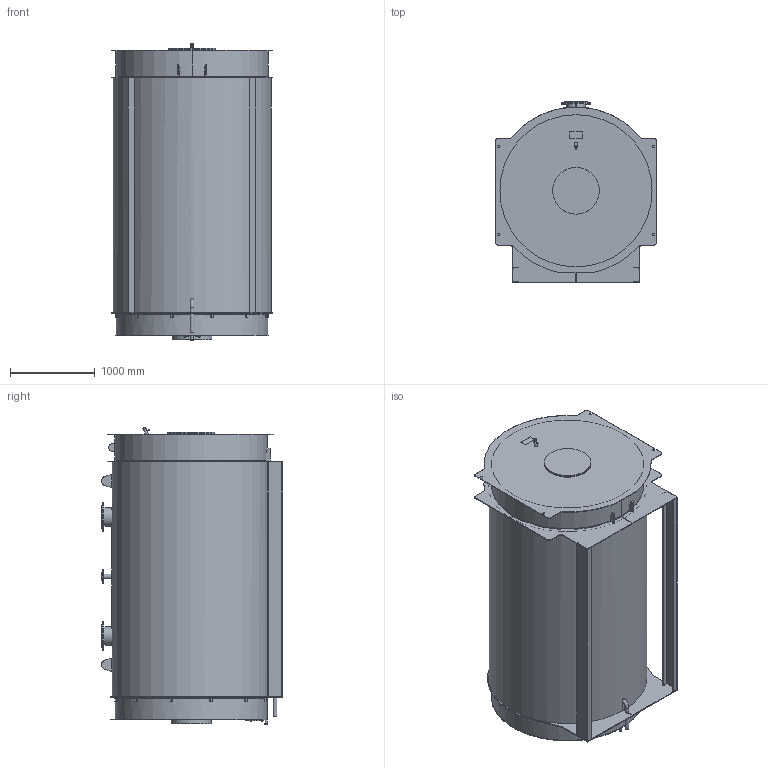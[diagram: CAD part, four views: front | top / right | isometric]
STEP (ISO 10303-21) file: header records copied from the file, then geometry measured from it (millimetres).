
FILE_DESCRIPTION(/* description */ (''),/* implementation_level */ '2;1');
FILE_NAME(/* name */ 'D:\Водогрейные 2х-ходовые котлы Гейзер\3D для проектировщиков\3D Гейзер 3000 кВт для проектировщика.stp',/* time_stamp */ '2024-08-15T00:23:25+07:00',/* author */ ('Александр'),/* organization */ (''),/* preprocessor_version */ 'ST-DEVELOPER v18.1',/* originating_system */ 'Autodesk Inventor 2021',/* authorisation */ '');
FILE_SCHEMA (('AUTOMOTIVE_DESIGN { 1 0 10303 214 3 1 1 }'));
Length unit declared in the file: millimetre
Products named in the file (1): Гейзер 3000 кВт_
Shrinkwrap_1
Bounding box: 1890 x 2137.81 x 3505.56 mm (x, y, z)
Volume: 9145050485.3 mm3; surface area: 33414085.1 mm2
Topology: 2 solids, 5 shells, 558 faces, 1515 edges, 955 vertices
Faces by surface type: plane 360, cylinder 167, cone 24, torus 6, bspline 1
Full cylindrical faces by diameter (mm): 4 x1, 6 x1, 7.8 x1, 8.7 x3, 21.939 x1, 25 x1, 26 x1, 33.5 x1, 38 x1, 42 x2, 57 x2, 160 x1, 210 x2, 219 x4, 335 x2, 470 x1, 550 x2, 1766 x2, 1791 x1, 1868 x1
Entity records: 18635 total; most frequent: CARTESIAN_POINT 3549, DIRECTION 3096, ORIENTED_EDGE 3036, EDGE_CURVE 1521, AXIS2_PLACEMENT_3D 1078, VERTEX_POINT 955, LINE 940, VECTOR 940
